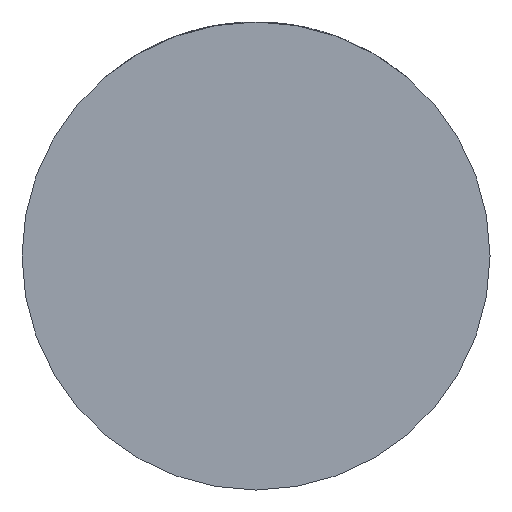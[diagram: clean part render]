
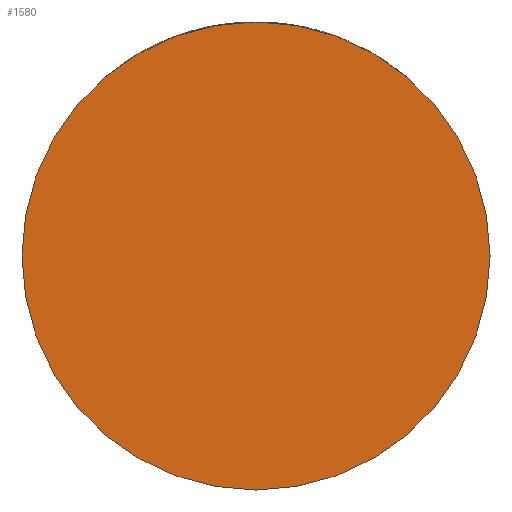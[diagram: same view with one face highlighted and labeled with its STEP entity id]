
A CAD part, front view. The second image highlights one B-rep face of the part: STEP entity #1580.
In plain terms, the highlighted planar face has unit normal (0, -1, 0).
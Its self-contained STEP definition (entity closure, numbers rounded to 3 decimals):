
#510 = ORIENTED_EDGE ( 'NONE', *, *, #4277, .T. ) ;
#820 = ORIENTED_EDGE ( 'NONE', *, *, #4213, .T. ) ;
#1132 = DIRECTION ( 'NONE',  ( 0., -1., 0. ) ) ;
#1180 = CARTESIAN_POINT ( 'NONE',  ( 0., -28., 0. ) ) ;
#1309 = EDGE_LOOP ( 'NONE', ( #820, #510 ) ) ;
#1502 = DIRECTION ( 'NONE',  ( 1., 0., 0. ) ) ;
#1580 = ADVANCED_FACE ( 'NONE', ( #4297 ), #2555, .T. ) ;
#1905 = CARTESIAN_POINT ( 'NONE',  ( 0., -28., 0. ) ) ;
#2152 = AXIS2_PLACEMENT_3D ( 'NONE', #1180, #2846, #3912 ) ;
#2241 = DIRECTION ( 'NONE',  ( 0., -1., 0. ) ) ;
#2329 = CARTESIAN_POINT ( 'NONE',  ( -32., -28., 0. ) ) ;
#2555 = PLANE ( 'NONE',  #2152 ) ;
#2783 = CIRCLE ( 'NONE', #4307, 32. ) ;
#2846 = DIRECTION ( 'NONE',  ( 0., -1., 0. ) ) ;
#3192 = CARTESIAN_POINT ( 'NONE',  ( 32., -28., 0. ) ) ;
#3355 = CIRCLE ( 'NONE', #4441, 32. ) ;
#3360 = VERTEX_POINT ( 'NONE', #3192 ) ;
#3912 = DIRECTION ( 'NONE',  ( 1., 0., 0. ) ) ;
#3914 = DIRECTION ( 'NONE',  ( 1., 0., 0. ) ) ;
#3993 = VERTEX_POINT ( 'NONE', #2329 ) ;
#4213 = EDGE_CURVE ( 'NONE', #3993, #3360, #2783, .T. ) ;
#4252 = CARTESIAN_POINT ( 'NONE',  ( 0., -28., 0. ) ) ;
#4277 = EDGE_CURVE ( 'NONE', #3360, #3993, #3355, .T. ) ;
#4297 = FACE_OUTER_BOUND ( 'NONE', #1309, .T. ) ;
#4307 = AXIS2_PLACEMENT_3D ( 'NONE', #1905, #2241, #1502 ) ;
#4441 = AXIS2_PLACEMENT_3D ( 'NONE', #4252, #1132, #3914 ) ;
